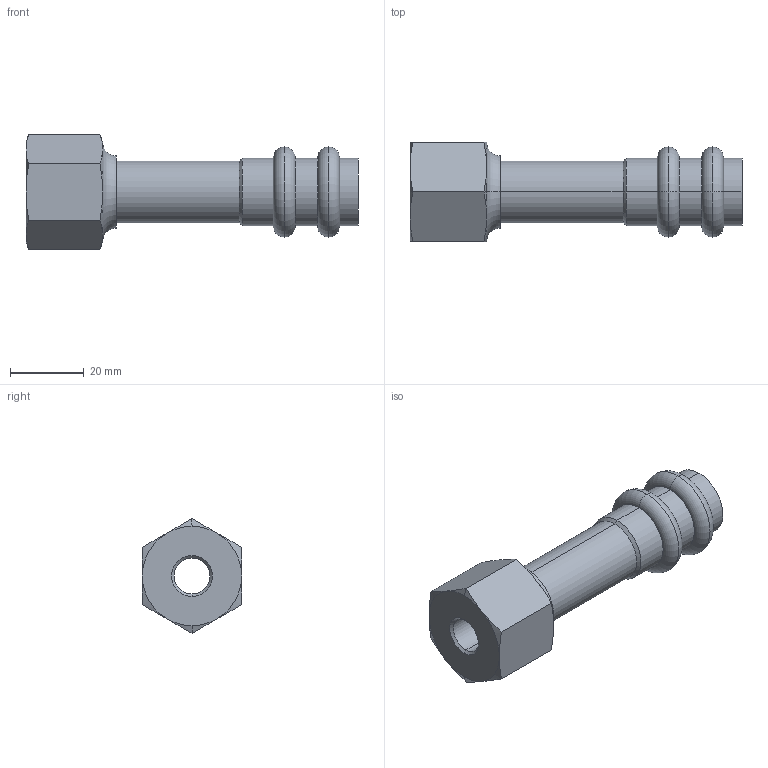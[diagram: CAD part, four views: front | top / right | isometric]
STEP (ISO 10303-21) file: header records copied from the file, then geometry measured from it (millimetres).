
FILE_DESCRIPTION(('starvars output'),'1');
FILE_NAME('cv20240422105149000011684.stp','10:51:50 2024/04/22',('Thomas Industrial Network Germany GmbH'),(' '),'Spatial InterOp 3D',' ',' ');
FILE_SCHEMA(('AUTOMOTIVE_DESIGN { 1 0 10303 214 3 1 1 }'));
Length unit declared in the file: millimetre
Products named in the file (1): 1
Bounding box: 90.2 x 27 x 31.18 mm (x, y, z)
Volume: 16759.6 mm3; surface area: 12059.7 mm2
Topology: 1 solids, 1 shells, 78 faces, 160 edges, 94 vertices
Faces by surface type: cone 24, torus 18, cylinder 18, plane 18
Entity records: 2736 total; most frequent: CARTESIAN_POINT 429, DIRECTION 394, ORIENTED_EDGE 320, AXIS2_PLACEMENT_3D 179, EDGE_CURVE 160, CIRCLE 100, VERTEX_POINT 94, EDGE_LOOP 90
